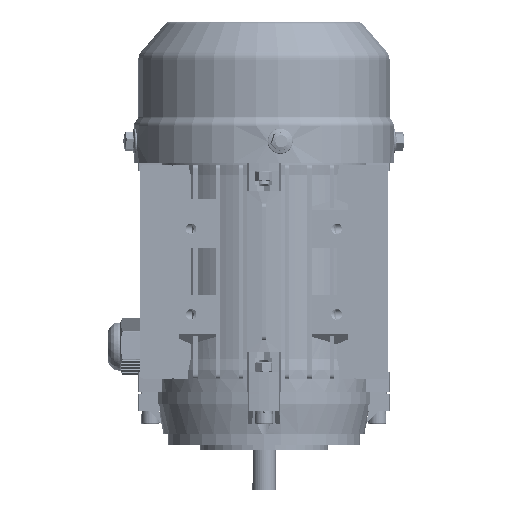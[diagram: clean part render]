
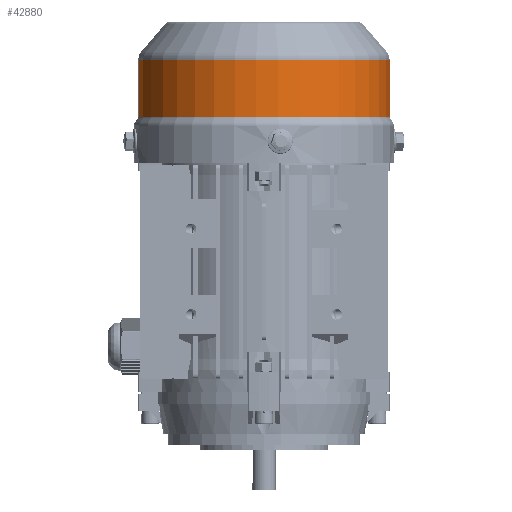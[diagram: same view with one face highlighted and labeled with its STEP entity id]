
A CAD part, front view. The second image highlights one B-rep face of the part: STEP entity #42880.
In plain terms, the highlighted cylindrical face has radius 58.8 mm (diameter 117.6 mm), a partial arc.
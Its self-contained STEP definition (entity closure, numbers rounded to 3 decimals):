
#2244 = DIRECTION ( 'NONE',  ( 1., 0., 0. ) ) ;
#2752 = VERTEX_POINT ( 'NONE', #19480 ) ;
#4845 = EDGE_CURVE ( 'NONE', #39620, #28116, #10543, .T. ) ;
#6360 = CARTESIAN_POINT ( 'NONE',  ( -58.8, 60.025, 0. ) ) ;
#7559 = CYLINDRICAL_SURFACE ( 'NONE', #71912, 58.8 ) ;
#8201 = EDGE_CURVE ( 'NONE', #74418, #2752, #16491, .T. ) ;
#8553 = CARTESIAN_POINT ( 'NONE',  ( 0., 33.496, 0. ) ) ;
#10543 = LINE ( 'NONE', #107841, #37839 ) ;
#11020 = CIRCLE ( 'NONE', #67804, 58.8 ) ;
#16491 = LINE ( 'NONE', #20214, #122701 ) ;
#18865 = DIRECTION ( 'NONE',  ( 1., 0., 0. ) ) ;
#19480 = CARTESIAN_POINT ( 'NONE',  ( -58.8, 33.496, 0. ) ) ;
#20214 = CARTESIAN_POINT ( 'NONE',  ( -58.8, 17.63, 0. ) ) ;
#21209 = CARTESIAN_POINT ( 'NONE',  ( 0., 17.63, 0. ) ) ;
#26472 = ORIENTED_EDGE ( 'NONE', *, *, #34996, .T. ) ;
#28116 = VERTEX_POINT ( 'NONE', #130048 ) ;
#33803 = EDGE_CURVE ( 'NONE', #2752, #28116, #11020, .T. ) ;
#34996 = EDGE_CURVE ( 'NONE', #74418, #39620, #41298, .T. ) ;
#35880 = DIRECTION ( 'NONE',  ( 0., -1., 0. ) ) ;
#36766 = AXIS2_PLACEMENT_3D ( 'NONE', #125476, #63908, #2244 ) ;
#37839 = VECTOR ( 'NONE', #35880, 1000. ) ;
#39620 = VERTEX_POINT ( 'NONE', #45141 ) ;
#40400 = DIRECTION ( 'NONE',  ( 0., -1., 0. ) ) ;
#41298 = CIRCLE ( 'NONE', #36766, 58.8 ) ;
#42880 = ADVANCED_FACE ( 'NONE', ( #92818 ), #7559, .T. ) ;
#45141 = CARTESIAN_POINT ( 'NONE',  ( 58.8, 60.025, 0. ) ) ;
#49821 = ORIENTED_EDGE ( 'NONE', *, *, #4845, .T. ) ;
#50963 = EDGE_LOOP ( 'NONE', ( #61844, #26472, #49821, #83063 ) ) ;
#61844 = ORIENTED_EDGE ( 'NONE', *, *, #8201, .F. ) ;
#63908 = DIRECTION ( 'NONE',  ( 0., -1., 0. ) ) ;
#67804 = AXIS2_PLACEMENT_3D ( 'NONE', #8553, #80494, #18865 ) ;
#71912 = AXIS2_PLACEMENT_3D ( 'NONE', #21209, #103481, #82840 ) ;
#74418 = VERTEX_POINT ( 'NONE', #6360 ) ;
#80494 = DIRECTION ( 'NONE',  ( 0., -1., 0. ) ) ;
#82840 = DIRECTION ( 'NONE',  ( 1., 0., 0. ) ) ;
#83063 = ORIENTED_EDGE ( 'NONE', *, *, #33803, .F. ) ;
#92818 = FACE_OUTER_BOUND ( 'NONE', #50963, .T. ) ;
#103481 = DIRECTION ( 'NONE',  ( 0., -1., 0. ) ) ;
#107841 = CARTESIAN_POINT ( 'NONE',  ( 58.8, 17.63, 0. ) ) ;
#122701 = VECTOR ( 'NONE', #40400, 1000. ) ;
#125476 = CARTESIAN_POINT ( 'NONE',  ( 0., 60.025, 0. ) ) ;
#130048 = CARTESIAN_POINT ( 'NONE',  ( 58.8, 33.496, 0. ) ) ;
